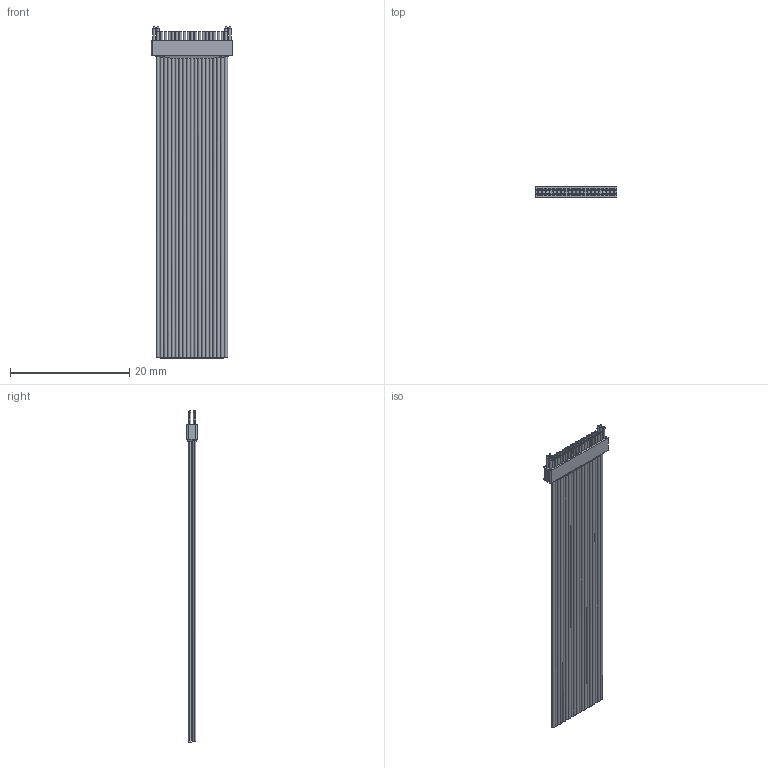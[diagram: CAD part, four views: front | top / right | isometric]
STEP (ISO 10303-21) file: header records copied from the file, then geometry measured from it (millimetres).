
FILE_DESCRIPTION (( 'STEP AP214' ), '1' );
FILE_NAME ('A79037-001 REV B.STEP', '2015-11-06T12:46:47', ( '' ), ( '' ), 'SwSTEP 2.0', 'SolidWorks 2015', '' );
FILE_SCHEMA (( 'AUTOMOTIVE_DESIGN' ));
Length unit declared in the file: inch
Products named in the file (1): A79037-001
Bounding box: 13.72 x 1.79 x 55.74 mm (x, y, z)
Volume: 472.2 mm3; surface area: 3635.3 mm2
Topology: 1 solids, 1 shells, 819 faces, 1826 edges, 1203 vertices
Faces by surface type: cylinder 470, plane 289, bspline 36, cone 12, torus 12
Entity records: 24315 total; most frequent: CARTESIAN_POINT 5770, DIRECTION 4020, ORIENTED_EDGE 3644, EDGE_CURVE 1822, AXIS2_PLACEMENT_3D 1682, VERTEX_POINT 1203, EDGE_LOOP 1017, CIRCLE 898
